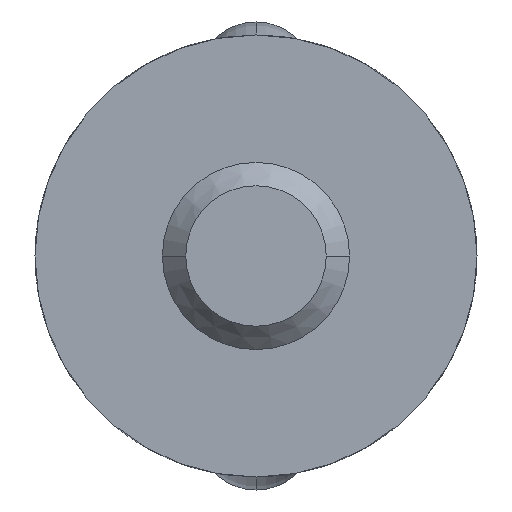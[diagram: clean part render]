
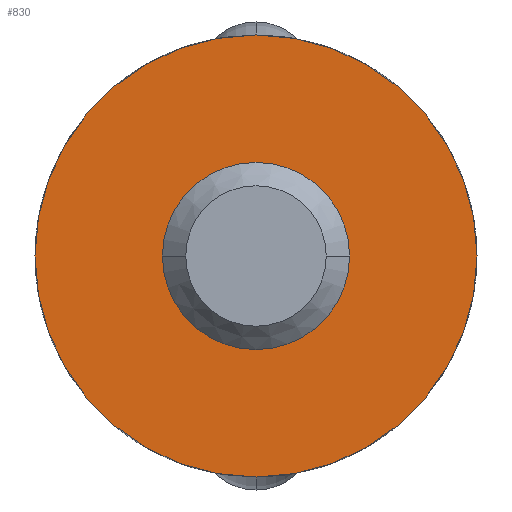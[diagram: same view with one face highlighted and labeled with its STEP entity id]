
A CAD part, front view. The second image highlights one B-rep face of the part: STEP entity #830.
In plain terms, the highlighted planar face has unit normal (0, -1, 0).
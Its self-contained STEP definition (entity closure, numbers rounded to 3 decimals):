
#830=ADVANCED_FACE('',(#1737,#1738),#1739,.F.);
#1737=FACE_OUTER_BOUND('',#7729,.T.);
#1738=FACE_BOUND('',#7730,.T.);
#1739=PLANE('',#7731);
#7729=EDGE_LOOP('',(#12197,#12198));
#7730=EDGE_LOOP('',(#12199,#12200,#12201));
#7731=AXIS2_PLACEMENT_3D('',#12202,#12203,#12204);
#12197=ORIENTED_EDGE('',*,*,#13700,.T.);
#12198=ORIENTED_EDGE('',*,*,#13753,.T.);
#12199=ORIENTED_EDGE('',*,*,#13749,.F.);
#12200=ORIENTED_EDGE('',*,*,#13748,.F.);
#12201=ORIENTED_EDGE('',*,*,#13746,.F.);
#12202=CARTESIAN_POINT('',(0.0,-139.0,0.0));
#12203=DIRECTION('',(0.0,1.0,0.0));
#12204=DIRECTION('',(1.0,0.0,-0.0));
#13700=EDGE_CURVE('',#15328,#15325,#15329,.T.);
#13746=EDGE_CURVE('',#15402,#15398,#15404,.T.);
#13748=EDGE_CURVE('',#15398,#15406,#15407,.T.);
#13749=EDGE_CURVE('',#15406,#15402,#15408,.T.);
#13753=EDGE_CURVE('',#15325,#15328,#15412,.T.);
#15325=VERTEX_POINT('',#23297);
#15328=VERTEX_POINT('',#23301);
#15329=CIRCLE('',#23302,85.);
#15398=VERTEX_POINT('',#23426);
#15402=VERTEX_POINT('',#23430);
#15404=CIRCLE('',#23432,35.85);
#15406=VERTEX_POINT('',#23434);
#15407=CIRCLE('',#23435,35.85);
#15408=CIRCLE('',#23436,35.85);
#15412=CIRCLE('',#23440,85.);
#23297=CARTESIAN_POINT('',(0.,-139.,-85.));
#23301=CARTESIAN_POINT('',(0.,-139.,85.));
#23302=AXIS2_PLACEMENT_3D('',#25791,#25792,#25793);
#23426=CARTESIAN_POINT('',(0.,-139.0,35.85));
#23430=CARTESIAN_POINT('',(0.,-139.0,-35.85));
#23432=AXIS2_PLACEMENT_3D('',#25863,#25864,#25865);
#23434=CARTESIAN_POINT('',(-35.85,-139.0,0.));
#23435=AXIS2_PLACEMENT_3D('',#25866,#25867,#25868);
#23436=AXIS2_PLACEMENT_3D('',#25869,#25870,#25871);
#23440=AXIS2_PLACEMENT_3D('',#25875,#25876,#25877);
#25791=CARTESIAN_POINT('',(0.,-139.,0.));
#25792=DIRECTION('',(0.0,-1.0,0.0));
#25793=DIRECTION('',(0.0,0.0,-1.0));
#25863=CARTESIAN_POINT('',(0.0,-139.0,0.0));
#25864=DIRECTION('',(0.0,-1.0,0.0));
#25865=DIRECTION('',(1.0,0.0,0.));
#25866=CARTESIAN_POINT('',(0.0,-139.0,0.0));
#25867=DIRECTION('',(0.0,-1.0,0.0));
#25868=DIRECTION('',(1.0,0.0,0.));
#25869=CARTESIAN_POINT('',(0.0,-139.0,0.0));
#25870=DIRECTION('',(0.0,-1.0,0.0));
#25871=DIRECTION('',(1.0,0.0,0.));
#25875=CARTESIAN_POINT('',(0.,-139.,0.));
#25876=DIRECTION('',(0.0,-1.0,0.0));
#25877=DIRECTION('',(0.0,0.0,-1.0));
